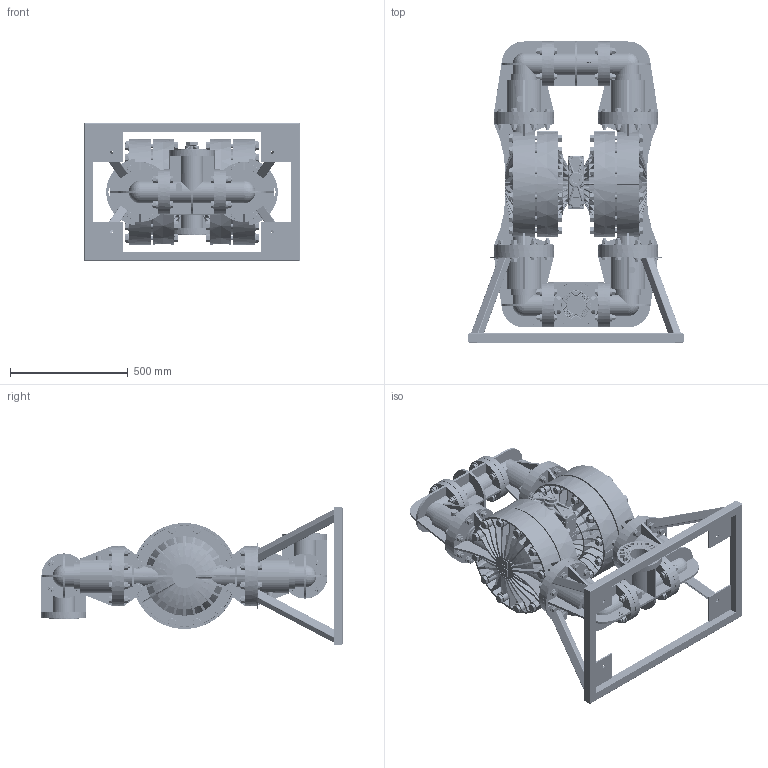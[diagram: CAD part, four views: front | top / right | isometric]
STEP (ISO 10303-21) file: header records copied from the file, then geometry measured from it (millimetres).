
FILE_DESCRIPTION (( 'STEP AP203' ), '1' );
FILE_NAME ('PS1500_ADV_POLY_DIN S.STEP', '2022-07-06T10:03:11', ( '' ), ( '' ), 'SwSTEP 2.0', 'SolidWorks 2019', '' );
FILE_SCHEMA (( 'CONFIG_CONTROL_DESIGN' ));
Products named in the file (1): PS1500_ADV_POLY_DIN S
Bounding box: 914.4 x 1278.87 x 584.2 mm (x, y, z)
Volume: 95838545.4 mm3; surface area: 7953854.9 mm2
Topology: 1 solids, 1 shells, 18850 faces, 47491 edges, 29552 vertices
Faces by surface type: plane 10145, cylinder 2862, cone 2105, bspline 2070, sphere 838, torus 830
Entity records: 788985 total; most frequent: CARTESIAN_POINT 353613, ORIENTED_EDGE 94868, DIRECTION 84902, EDGE_CURVE 47434, VERTEX_POINT 29518, AXIS2_PLACEMENT_3D 29174, LINE 26554, VECTOR 26554
